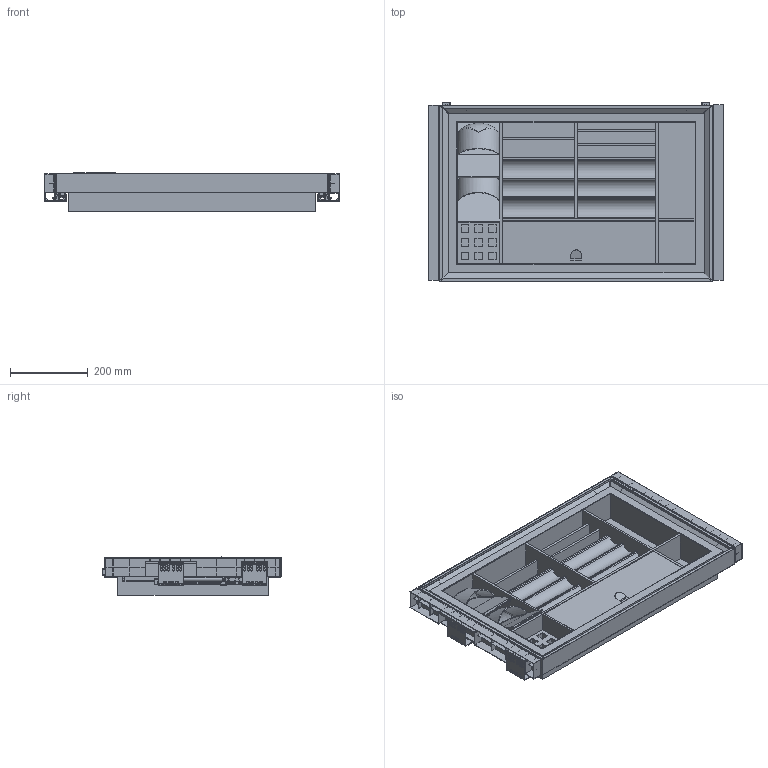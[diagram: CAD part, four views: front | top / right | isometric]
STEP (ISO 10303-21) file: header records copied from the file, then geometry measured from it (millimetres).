
FILE_DESCRIPTION(/* description */ ('STEP AP242 Edition 2','CAx-IF Rec.Pracs.---Representation and Presentation of Product Manufacturing Information (PMI)---4.0---2014-10-13','CAx-IF Rec.Pracs.---3D Tessellated Geometry---0.4---2014-09-14','2;1','CAx-IF Rec.Pracs.---User Defined Attributes---1.5---2016-08-15'),/* implementation_level */ '2;1');
FILE_NAME(/* name */ '6a0ecb0893d4219ca213e38b',/* time_stamp */ '2026-05-21T09:06:19Z',/* author */ (''),/* organization */ (''),/* preprocessor_version */ 'ST-DEVELOPER v20',/* originating_system */ 'ONSHAPE BY PTC INC, 1.215',/* authorisation */ ' ');
FILE_SCHEMA (('AP242_MANAGED_MODEL_BASED_3D_ENGINEERING_MIM_LF { 1 0 10303 442 3 1 4 }'));
Products named in the file (49): 800 assembly; Part 1; Part 9; Part 3; Part 10; Part 6; Part 2; Part 5; Part 4; Part 8; Part 7; assembly 800 (764mm) <1>; Part 14; Part 13; Part 18; Part 20; Part 15; Part 17; Part 12; Part 11; Part 24; Part 19; Part 21; Part 16; Part 22; Part 23
Assembly tree (49 placements, depth 3):
  800 assembly
    Part 1
    Part 9
    Part 1  x2
    Part 3
    Part 10
    Part 6
    Part 2
    Part 5
    Part 4
    Part 8
    Part 7
    assembly 800 (764mm) <1>
      Part 6
      Part 14
      Part 1
      Part 13
      Part 8
      Part 18
      Part 3
      Part 20
      Part 2
      Part 7
      Part 4
      Part 10
      Part 4
      Part 15
      Part 5
      Part 9
      Part 7
      Part 1
      Part 17
      Part 12
      Part 9
      Part 1
      Part 2
      Part 11
      Part 24
      Part 3
      Part 5
      Part 10
      Part 6
      Part 19
      Part 21
      Part 16
      Part 2
      Part 8
      Part 22
      Part 23
Bounding box: 759.35 x 461.85 x 98.83 mm (x, y, z)
Volume: 9463004.7 mm3; surface area: 3582423.6 mm2
Topology: 48 solids, 48 shells, 4749 faces, 12251 edges, 7312 vertices
Faces by surface type: plane 2452, cylinder 1535, torus 352, sphere 344, bspline 64, cone 2
Full cylindrical faces by diameter (mm): 2 x2, 2.1 x2, 2.45 x2, 2.5 x2, 2.6 x2, 4 x4, 4.5 x2, 6 x56, 9 x2
Entity records: 141371 total; most frequent: CARTESIAN_POINT 25579, DIRECTION 24435, ORIENTED_EDGE 23514, EDGE_CURVE 11757, AXIS2_PLACEMENT_3D 8149, LINE 8137, VECTOR 8137, VERTEX_POINT 7270
